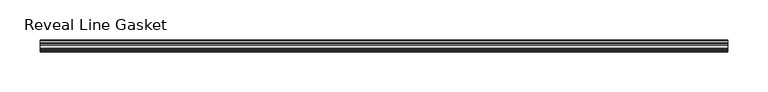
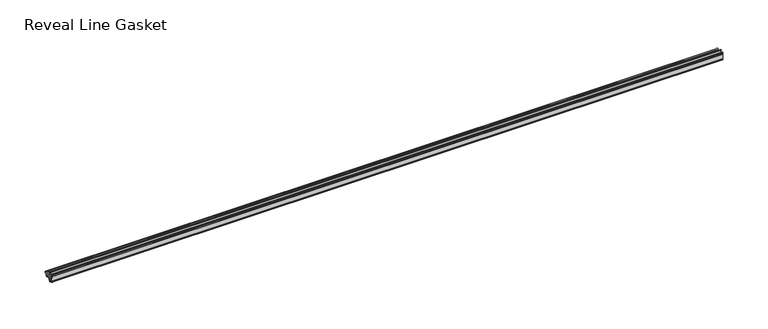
"""IFC4 building model written with IfcOpenShell, lengths in millimetres: proxy geometry, Accessories-Teknion-FHGR-AI_Healthcare-Reveal_Line_Gasket(Horizontal)-R2022 : Reveal Line Gasket."""

from ifc_helpers import new_model, si_unit, point, frame, frame_2d, origin, place, context, project, spatial, polyline, circle_curve, trimmed, segment, composite_curve, outline, extrude, source, transform, mapped, element, save


def reveal_line_gasket_a33dae62(model_context):
    return source(origin(), model_context, "Body", "SweptSolid", [
        extrude(outline(composite_curve([segment(polyline([(-7.6326998, 1603.2), (-7.4091917, 1604.1554927), (-6.8813059, 1605.0884684)]), True, "CONTINUOUS"), segment(trimmed(circle_curve(frame_2d((-6.5243141, 1604.8864793)), 0.4101739), [point((-6.8813059, 1605.0884684))], [point((-6.1246704, 1604.7941347))], False, "CARTESIAN"), True, "CONTINUOUS"), segment(polyline([(-6.1246704, 1604.7941347), (-6.3626997, 1603.0979086), (-6.3626997, 1601.0654527)]), True, "CONTINUOUS"), segment(trimmed(circle_curve(frame_2d((-5.6959605, 1601.4819258)), 0.786124), [point((-6.3626997, 1601.0654527))], [point((-5.0926996, 1600.977875))], True, "CARTESIAN"), True, "CONTINUOUS"), segment(polyline([(-5.0926996, 1600.977875), (-0.7492996, 1600.977875), (-3.7293824, 1606.1395295)]), True, "CONTINUOUS"), segment(trimmed(circle_curve(frame_2d((-3.3132479, 1606.2049761)), 0.4212495), [point((-3.7293824, 1606.1395295))], [point((-3.0485022, 1606.5326358))], False, "CARTESIAN"), True, "CONTINUOUS"), segment(polyline([(-3.0485022, 1606.5326358), (0.5742594, 1600.977875), (4.8262978, 1600.977875), (3.1660374, 1603.8535297)]), True, "CONTINUOUS"), segment(trimmed(circle_curve(frame_2d((3.5978728, 1603.9118855)), 0.4357605), [point((3.1660374, 1603.8535297))], [point((3.864328, 1604.2566881))], False, "CARTESIAN"), True, "CONTINUOUS"), segment(polyline([(3.864328, 1604.2566881), (6.1944059, 1600.977875), (7.6326998, 1600.977875), (7.6326998, 1599.422125), (6.1944059, 1599.422125), (3.864328, 1596.1433119)]), True, "CONTINUOUS"), segment(trimmed(circle_curve(frame_2d((3.5978728, 1596.4881145)), 0.4357605), [point((3.864328, 1596.1433119))], [point((3.1660374, 1596.5464703))], False, "CARTESIAN"), True, "CONTINUOUS"), segment(polyline([(3.1660374, 1596.5464703), (4.8262978, 1599.422125), (0.5742594, 1599.422125), (-3.0485022, 1593.8673642)]), True, "CONTINUOUS"), segment(trimmed(circle_curve(frame_2d((-3.3132479, 1594.1950239)), 0.4212495), [point((-3.0485022, 1593.8673642))], [point((-3.7293824, 1594.2604705))], False, "CARTESIAN"), True, "CONTINUOUS"), segment(polyline([(-3.7293824, 1594.2604705), (-0.7492996, 1599.422125), (-5.0926996, 1599.422125)]), True, "CONTINUOUS"), segment(trimmed(circle_curve(frame_2d((-5.6959605, 1598.9180742)), 0.786124), [point((-5.0926996, 1599.422125))], [point((-6.3626997, 1599.3345473))], True, "CARTESIAN"), True, "CONTINUOUS"), segment(polyline([(-6.3626997, 1599.3345473), (-6.3626997, 1597.3020914), (-6.1246704, 1595.6058653)]), True, "CONTINUOUS"), segment(trimmed(circle_curve(frame_2d((-6.5243141, 1595.5135207)), 0.4101739), [point((-6.1246704, 1595.6058653))], [point((-6.8813059, 1595.3115316))], False, "CARTESIAN"), True, "CONTINUOUS"), segment(polyline([(-6.8813059, 1595.3115316), (-7.4091917, 1596.2445073), (-7.6326998, 1597.2), (-7.6326998, 1603.2)]), True, "CONTINUOUS")], self_intersect=False)), frame((-429.9204, 0.0, 0.0), z_axis=(1.0, 0.0, 0.0), x_axis=(0.0, 1.0, 0.0)), (0.0, 0.0, 1.0), 859.8408),
    ])


if __name__ == "__main__":
    model = new_model("IFC4")
    model_context = context("Model", 3, world=origin())
    ifc_project = project(units=[si_unit("LENGTHUNIT", "METRE", prefix="MILLI")], contexts=[model_context])
    site = spatial("IfcSite", under=ifc_project)
    building = spatial("IfcBuilding", under=site)
    placement = place(None, origin())
    reveal_line_gasket_shape = reveal_line_gasket_a33dae62(model_context)
    element("IfcBuildingElementProxy", 1, Name="Accessories-Teknion-FHGR-AI_Healthcare-Reveal_Line_Gasket(Horizontal)-R2022 : Reveal Line Gasket", ObjectType="Accessories-Teknion-FHGR-AI_Healthcare-Reveal_Line_Gasket(Horizontal)-R2022 : Reveal Line Gasket", at=placement, inside=building, context=model_context, shape_type="MappedRepresentation", body=[
        mapped(reveal_line_gasket_shape, transform((0.0, 0.0, 0.0), x_axis=(1.0, 0.0, 0.0), y_axis=(0.0, 1.0, 0.0), z_axis=(0.0, 0.0, 1.0))),
    ])
    save(model, "model.ifc")
